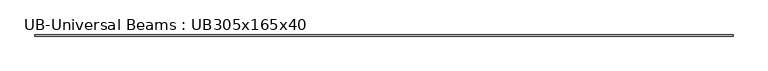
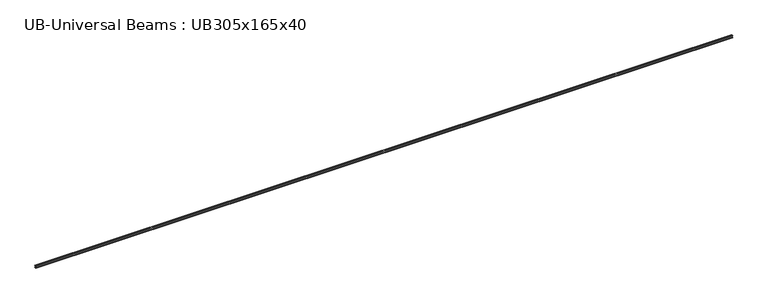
"""IFC4 building model written with IfcOpenShell, lengths in millimetres: beam geometry, UB-Universal Beams : UB305x165x40."""

from ifc_helpers import new_model, si_unit, point, frame, frame_2d, origin, place, context, project, spatial, polyline, circle_curve, trimmed, segment, composite_curve, outline, extrude, source, transform, mapped, element, save


def ub_universal_beams_ub305x165x40_2a322099(model_context):
    return source(origin(), model_context, "Body", "SweptSolid", [
        extrude(outline(composite_curve([segment(polyline([(82.5, -141.5), (82.5, -151.7), (-82.5, -151.7), (-82.5, -141.5), (-11.9, -141.5)]), True, "CONTINUOUS"), segment(trimmed(circle_curve(frame_2d((-11.9, -132.6)), 8.9), [point((-11.9, -141.5))], [point((-3.0, -132.6))], True, "CARTESIAN"), True, "CONTINUOUS"), segment(polyline([(-3.0, -132.6), (-3.0, 132.6)]), True, "CONTINUOUS"), segment(trimmed(circle_curve(frame_2d((-11.9, 132.6)), 8.9), [point((-3.0, 132.6))], [point((-11.9, 141.5))], True, "CARTESIAN"), True, "CONTINUOUS"), segment(polyline([(-11.9, 141.5), (-82.5, 141.5), (-82.5, 151.7), (82.5, 151.7), (82.5, 141.5), (11.9, 141.5)]), True, "CONTINUOUS"), segment(trimmed(circle_curve(frame_2d((11.9, 132.6)), 8.9), [point((11.9, 141.5))], [point((3.0, 132.6))], True, "CARTESIAN"), True, "CONTINUOUS"), segment(polyline([(3.0, 132.6), (3.0, -132.6)]), True, "CONTINUOUS"), segment(trimmed(circle_curve(frame_2d((11.9, -132.6)), 8.9), [point((3.0, -132.6))], [point((11.9, -141.5))], True, "CARTESIAN"), True, "CONTINUOUS"), segment(polyline([(11.9, -141.5), (82.5, -141.5)]), True, "CONTINUOUS")], self_intersect=False)), frame((-49834.6, 0.0, 0.0), z_axis=(1.0, 0.0, 0.0), x_axis=(0.0, 1.0, 0.0)), (0.0, 0.0, 1.0), 99974.6),
    ])


if __name__ == "__main__":
    model = new_model("IFC4")
    model_context = context("Model", 3, world=origin())
    ifc_project = project(units=[si_unit("LENGTHUNIT", "METRE", prefix="MILLI")], contexts=[model_context])
    site = spatial("IfcSite", under=ifc_project)
    building = spatial("IfcBuilding", under=site)
    placement = place(None, origin())
    ub_universal_beams_ub305x165x40_shape = ub_universal_beams_ub305x165x40_2a322099(model_context)
    element("IfcBeam", 1, ObjectType="UB-Universal Beams : UB305x165x40", at=placement, inside=building, context=model_context, shape_type="MappedRepresentation", body=[
        mapped(ub_universal_beams_ub305x165x40_shape, transform((0.0, 0.0, 0.0), x_axis=(1.0, 0.0, 0.0), y_axis=(0.0, 1.0, 0.0), z_axis=(0.0, 0.0, 1.0))),
    ])
    save(model, "model.ifc")
